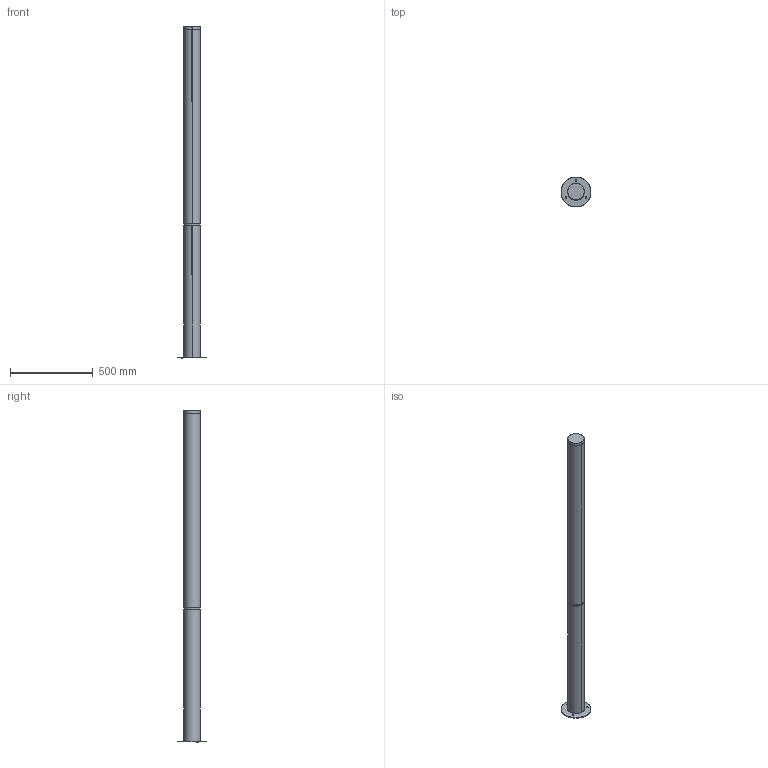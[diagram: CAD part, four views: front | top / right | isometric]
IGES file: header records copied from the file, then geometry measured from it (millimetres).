
Start section: SolidWorks IGES file using analytic representation for surfaces
Global section: file name: C:\Users\anna.bielnik\Desktop\MIA-LED-L-11375\MIA-LED-L.IGS; native system: SolidWorks 2023; preprocessor: SolidWorks 2023; author: anna.bielnik; date: 241008.123713; units: millimetre
Bounding box: 180 x 180 x 2004.2 mm (x, y, z)
Surface area: 953538.6 mm2 (no closed solid volume)
Topology: 0 solids, 0 shells, 50 faces, 1284 edges, 1284 vertices
Faces by surface type: bspline 26, revolution 24
